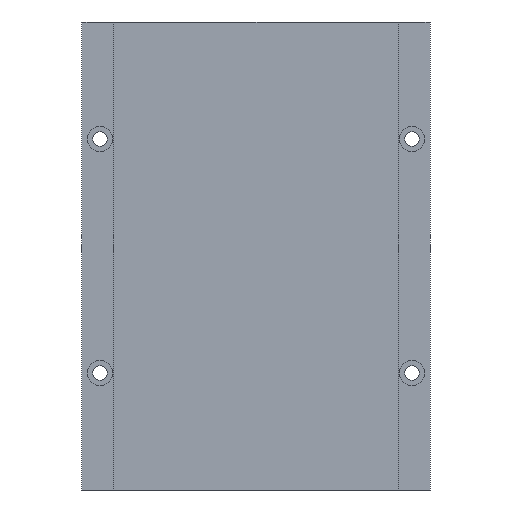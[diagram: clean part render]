
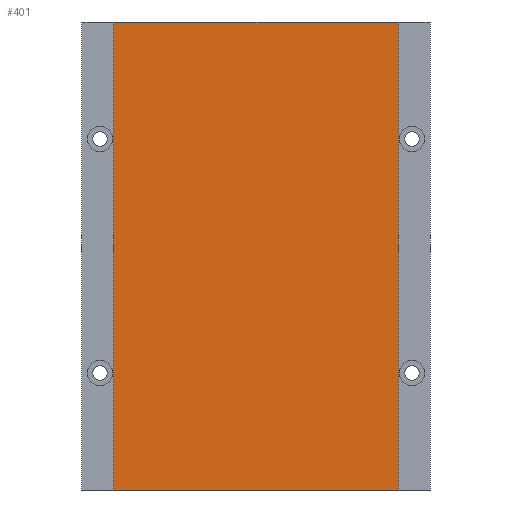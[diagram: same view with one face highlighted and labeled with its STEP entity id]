
A CAD part, left-side view. The second image highlights one B-rep face of the part: STEP entity #401.
In plain terms, the highlighted planar face has unit normal (-1, 0, 0).
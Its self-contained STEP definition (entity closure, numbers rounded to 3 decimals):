
#35 = AXIS2_PLACEMENT_3D ( 'NONE', #819, #243, #306 ) ;
#70 = DIRECTION ( 'NONE',  ( 0., 0., -1. ) ) ;
#80 = CARTESIAN_POINT ( 'NONE',  ( -7.8, 0., 0. ) ) ;
#95 = ORIENTED_EDGE ( 'NONE', *, *, #231, .T. ) ;
#119 = VERTEX_POINT ( 'NONE', #641 ) ;
#139 = VECTOR ( 'NONE', #896, 1000. ) ;
#197 = CARTESIAN_POINT ( 'NONE',  ( -7.8, 51.1, 168. ) ) ;
#231 = EDGE_CURVE ( 'NONE', #119, #587, #640, .T. ) ;
#243 = DIRECTION ( 'NONE',  ( -1., 0., 0. ) ) ;
#265 = EDGE_CURVE ( 'NONE', #587, #686, #282, .T. ) ;
#282 = LINE ( 'NONE', #510, #471 ) ;
#287 = DIRECTION ( 'NONE',  ( 0., 1., 0. ) ) ;
#306 = DIRECTION ( 'NONE',  ( 0., 0., 1. ) ) ;
#318 = EDGE_CURVE ( 'NONE', #575, #686, #546, .T. ) ;
#361 = CARTESIAN_POINT ( 'NONE',  ( -7.8, 0., 168. ) ) ;
#401 = ADVANCED_FACE ( 'NONE', ( #556 ), #826, .T. ) ;
#438 = ORIENTED_EDGE ( 'NONE', *, *, #940, .F. ) ;
#452 = ORIENTED_EDGE ( 'NONE', *, *, #318, .F. ) ;
#471 = VECTOR ( 'NONE', #70, 1000. ) ;
#510 = CARTESIAN_POINT ( 'NONE',  ( -7.8, 51.1, 168. ) ) ;
#546 = LINE ( 'NONE', #80, #655 ) ;
#556 = FACE_OUTER_BOUND ( 'NONE', #571, .T. ) ;
#571 = EDGE_LOOP ( 'NONE', ( #452, #438, #95, #697 ) ) ;
#575 = VERTEX_POINT ( 'NONE', #841 ) ;
#587 = VERTEX_POINT ( 'NONE', #197 ) ;
#640 = LINE ( 'NONE', #361, #777 ) ;
#641 = CARTESIAN_POINT ( 'NONE',  ( -7.8, -51.1, 168. ) ) ;
#655 = VECTOR ( 'NONE', #882, 1000. ) ;
#686 = VERTEX_POINT ( 'NONE', #854 ) ;
#697 = ORIENTED_EDGE ( 'NONE', *, *, #265, .T. ) ;
#754 = CARTESIAN_POINT ( 'NONE',  ( -7.8, -51.1, 168. ) ) ;
#777 = VECTOR ( 'NONE', #287, 1000. ) ;
#800 = LINE ( 'NONE', #754, #139 ) ;
#819 = CARTESIAN_POINT ( 'NONE',  ( -7.8, 0., 168. ) ) ;
#826 = PLANE ( 'NONE',  #35 ) ;
#841 = CARTESIAN_POINT ( 'NONE',  ( -7.8, -51.1, 0. ) ) ;
#854 = CARTESIAN_POINT ( 'NONE',  ( -7.8, 51.1, 0. ) ) ;
#882 = DIRECTION ( 'NONE',  ( 0., 1., 0. ) ) ;
#896 = DIRECTION ( 'NONE',  ( 0., 0., -1. ) ) ;
#940 = EDGE_CURVE ( 'NONE', #119, #575, #800, .T. ) ;
